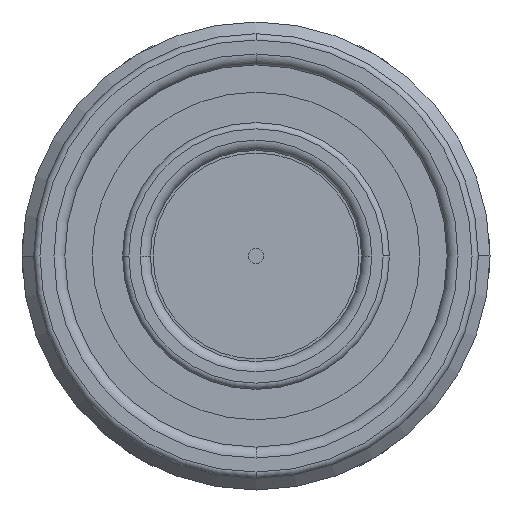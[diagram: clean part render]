
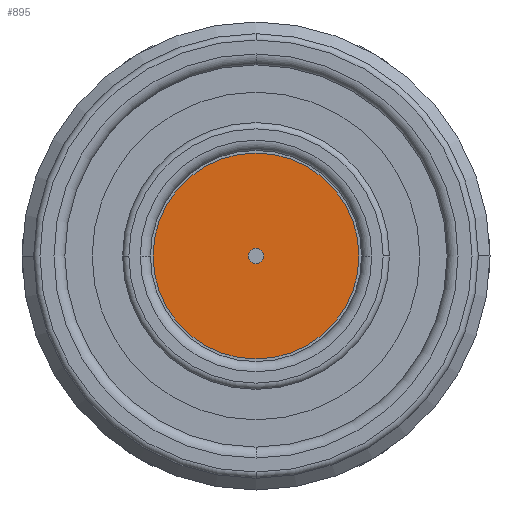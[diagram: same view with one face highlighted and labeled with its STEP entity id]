
A CAD part, front view. The second image highlights one B-rep face of the part: STEP entity #895.
In plain terms, the highlighted planar face has unit normal (0, -1, 0).
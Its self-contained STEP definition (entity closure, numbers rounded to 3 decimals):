
#722=PLANE('',#2886);
#762=FACE_BOUND('',#1201,.T.);
#763=FACE_BOUND('',#1202,.T.);
#895=ADVANCED_FACE('',(#762,#763),#722,.F.);
#1201=EDGE_LOOP('',(#1771,#1772));
#1202=EDGE_LOOP('',(#1773,#1774));
#1771=ORIENTED_EDGE('',*,*,#2442,.F.);
#1772=ORIENTED_EDGE('',*,*,#2325,.F.);
#1773=ORIENTED_EDGE('',*,*,#2368,.F.);
#1774=ORIENTED_EDGE('',*,*,#2441,.F.);
#2117=VERTEX_POINT('',#3899);
#2118=VERTEX_POINT('',#3901);
#2159=VERTEX_POINT('',#4010);
#2160=VERTEX_POINT('',#4011);
#2325=EDGE_CURVE('',#2117,#2118,#2595,.T.);
#2368=EDGE_CURVE('',#2159,#2160,#2613,.T.);
#2441=EDGE_CURVE('',#2160,#2159,#2652,.T.);
#2442=EDGE_CURVE('',#2118,#2117,#2653,.T.);
#2595=CIRCLE('',#2788,0.5);
#2613=CIRCLE('',#2813,6.6);
#2652=CIRCLE('',#2883,6.6);
#2653=CIRCLE('',#2885,0.5);
#2788=AXIS2_PLACEMENT_3D('',#3900,#3174,#3175);
#2813=AXIS2_PLACEMENT_3D('',#4009,#3243,#3244);
#2883=AXIS2_PLACEMENT_3D('',#4186,#3407,#3408);
#2885=AXIS2_PLACEMENT_3D('',#4188,#3411,#3412);
#2886=AXIS2_PLACEMENT_3D('',#4189,#3413,#3414);
#3174=DIRECTION('',(0.,-1.,0.));
#3175=DIRECTION('',(1.,0.,0.));
#3243=DIRECTION('',(0.,1.,0.));
#3244=DIRECTION('',(-1.,0.,0.));
#3407=DIRECTION('',(0.,1.,0.));
#3408=DIRECTION('',(-1.,0.,0.));
#3411=DIRECTION('',(0.,-1.,0.));
#3412=DIRECTION('',(1.,0.,0.));
#3413=DIRECTION('',(0.,1.,0.));
#3414=DIRECTION('',(-1.,0.,0.));
#3899=CARTESIAN_POINT('',(-0.5,-81.3,0.));
#3900=CARTESIAN_POINT('',(0.,-81.3,0.));
#3901=CARTESIAN_POINT('',(0.5,-81.3,0.));
#4009=CARTESIAN_POINT('',(0.,-81.3,0.));
#4010=CARTESIAN_POINT('',(-6.6,-81.3,0.));
#4011=CARTESIAN_POINT('',(6.6,-81.3,0.));
#4186=CARTESIAN_POINT('',(0.,-81.3,0.));
#4188=CARTESIAN_POINT('',(0.,-81.3,0.));
#4189=CARTESIAN_POINT('',(6.6,-81.3,0.));
